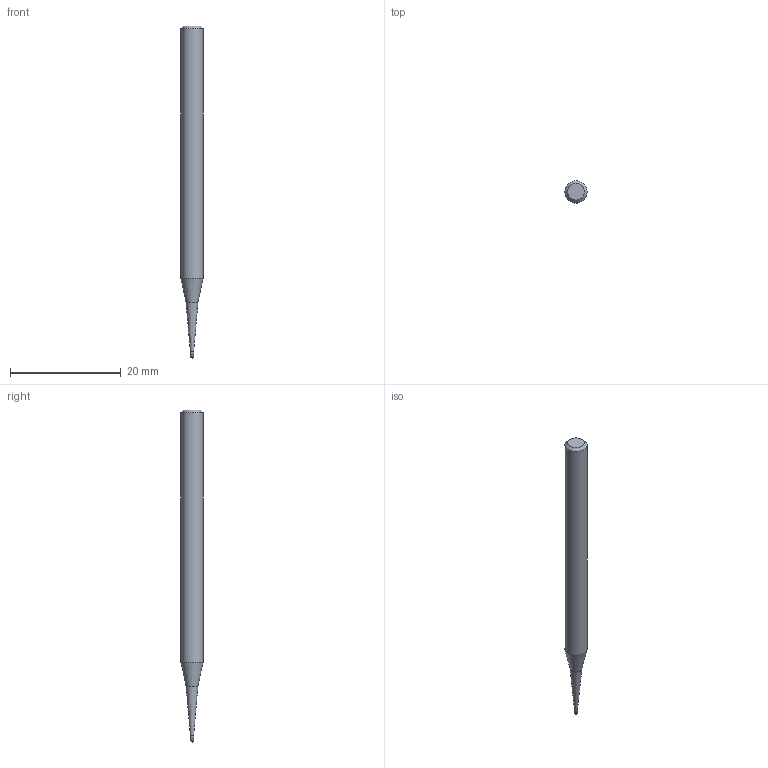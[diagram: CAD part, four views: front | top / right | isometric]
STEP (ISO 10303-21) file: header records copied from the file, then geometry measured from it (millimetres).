
FILE_DESCRIPTION((''),'2;1');
FILE_NAME('C:\Users\nsx150\AppData\Local\Temp\Mastercam 2021\SNAKH10GOD\TEMP.step','2021-10-21T13:31:45',(''),(''),'STEP Write','Mastercam 2021 ... CNC Software, Inc.','');
FILE_SCHEMA(('AUTOMOTIVE_DESIGN'));
Length unit declared in the file: millimetre
Products named in the file (1): None
Bounding box: 4 x 4 x 60 mm (x, y, z)
Volume: 619.8 mm3; surface area: 665.6 mm2
Topology: 2 solids, 2 shells, 10 faces, 16 edges, 9 vertices
Faces by surface type: plane 3, cylinder 3, cone 3, sphere 1
Full cylindrical faces by diameter (mm): 0.585 x1, 0.6 x1, 4 x1
Entity records: 232 total; most frequent: DIRECTION 40, CARTESIAN_POINT 28, AXIS2_PLACEMENT_3D 20, ORIENTED_EDGE 16, EDGE_LOOP 16, STYLED_ITEM 13, ADVANCED_FACE 10, FACE_BOUND 9
